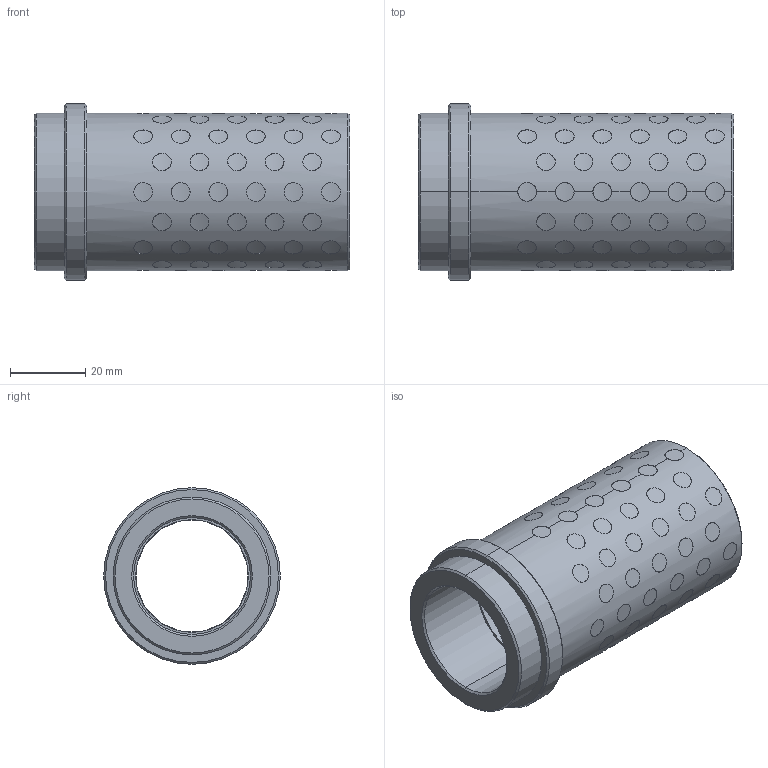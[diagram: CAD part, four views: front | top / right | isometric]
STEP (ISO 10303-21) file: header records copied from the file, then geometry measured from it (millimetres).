
FILE_DESCRIPTION((''),'2;1');
FILE_NAME('G31230076','2017-12-30T',('MANU'),(''),'PRO/ENGINEER BY PARAMETRIC TECHNOLOGY CORPORATION, 2012130','PRO/ENGINEER BY PARAMETRIC TECHNOLOGY CORPORATION, 2012130','');
FILE_SCHEMA(('CONFIG_CONTROL_DESIGN'));
Length unit declared in the file: millimetre
Products named in the file (1): G31230076
Bounding box: 84 x 47 x 47 mm (x, y, z)
Volume: 57741.3 mm3; surface area: 37516.7 mm2
Topology: 89 solids, 89 shells, 555 faces, 1182 edges, 784 vertices
Faces by surface type: cylinder 538, cone 12, plane 5
Entity records: 27398 total; most frequent: CARTESIAN_POINT 16573, ORIENTED_EDGE 2364, DIRECTION 1572, EDGE_CURVE 1182, VERTEX_POINT 784, B_SPLINE_CURVE_WITH_KNOTS 752, EDGE_LOOP 712, AXIS2_PLACEMENT_3D 587
